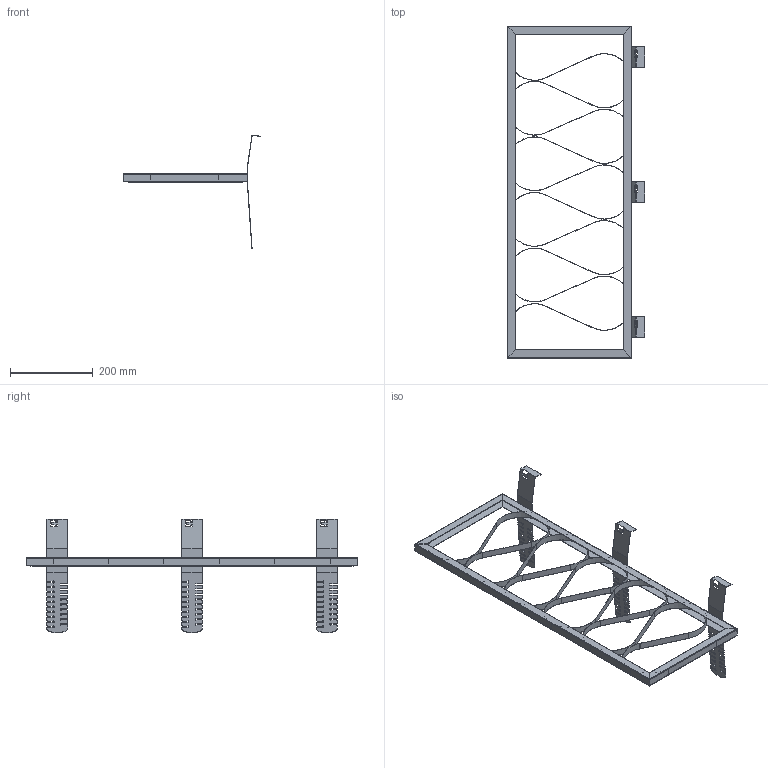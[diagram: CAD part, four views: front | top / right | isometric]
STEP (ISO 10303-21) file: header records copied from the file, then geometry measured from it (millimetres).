
FILE_DESCRIPTION(/* description */ (''),/* implementation_level */ '2;1');
FILE_NAME(/* name */ 'H:\Geberit-Teile\Export\388.301.00.1\stp\388301.stp',/* time_stamp */ '2015-04-15T13:32:59+02:00',/* author */ ('seihe2'),/* organization */ (''),/* preprocessor_version */ 'ST-DEVELOPER v15.2',/* originating_system */ 'Autodesk Inventor 2014',/* authorisation */ '');
FILE_SCHEMA (('AUTOMOTIVE_DESIGN { 1 0 10303 214 3 1 1 }'));
Length unit declared in the file: millimetre
Products named in the file (1): 388301
Bounding box: 331.77 x 800 x 274.41 mm (x, y, z)
Volume: 176102.8 mm3; surface area: 460648.2 mm2
Topology: 4 solids, 4 shells, 753 faces, 2144 edges, 1386 vertices
Faces by surface type: plane 410, cylinder 343
Entity records: 25320 total; most frequent: DIRECTION 4332, ORIENTED_EDGE 4300, CARTESIAN_POINT 4284, EDGE_CURVE 2144, LINE 1464, VECTOR 1464, AXIS2_PLACEMENT_3D 1434, VERTEX_POINT 1386
